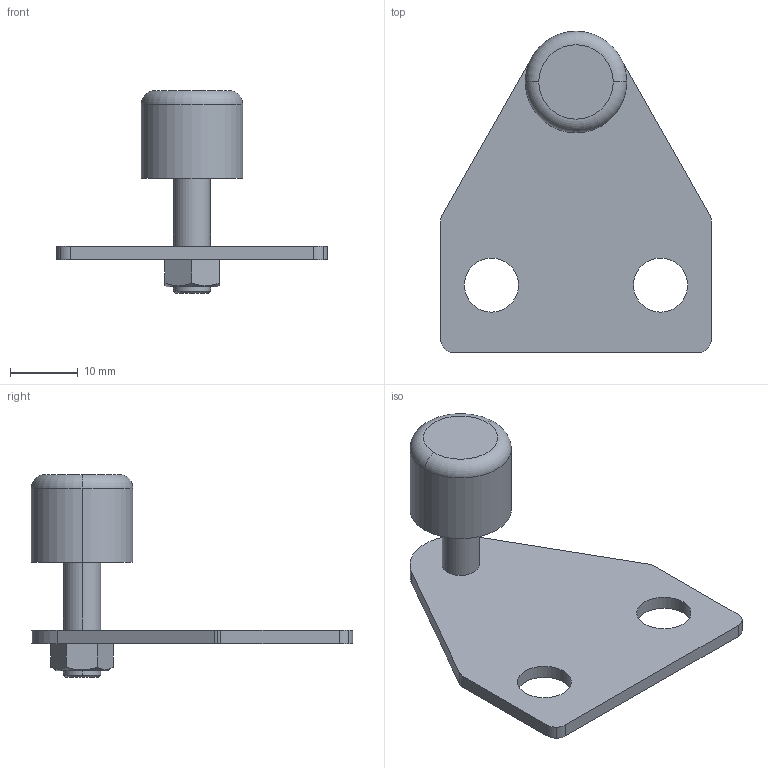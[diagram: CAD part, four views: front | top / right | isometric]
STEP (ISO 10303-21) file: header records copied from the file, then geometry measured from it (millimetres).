
FILE_DESCRIPTION (( 'STEP AP203' ), '1' );
FILE_NAME ('MG0640-8.STEP', '2024-02-19T12:45:05', ( '' ), ( '' ), 'SwSTEP 2.0', 'SolidWorks 2022', '' );
FILE_SCHEMA (( 'CONFIG_CONTROL_DESIGN' ));
Length unit declared in the file: millimetre
Products named in the file (1): MG0640-8
Bounding box: 40 x 47.5 x 30 mm (x, y, z)
Volume: 5462.8 mm3; surface area: 4289.1 mm2
Topology: 1 solids, 1 shells, 42 faces, 104 edges, 68 vertices
Faces by surface type: cylinder 19, plane 17, cone 4, torus 2
Entity records: 1339 total; most frequent: CARTESIAN_POINT 231, DIRECTION 228, ORIENTED_EDGE 208, EDGE_CURVE 104, AXIS2_PLACEMENT_3D 89, VERTEX_POINT 68, VECTOR 50, LINE 50
